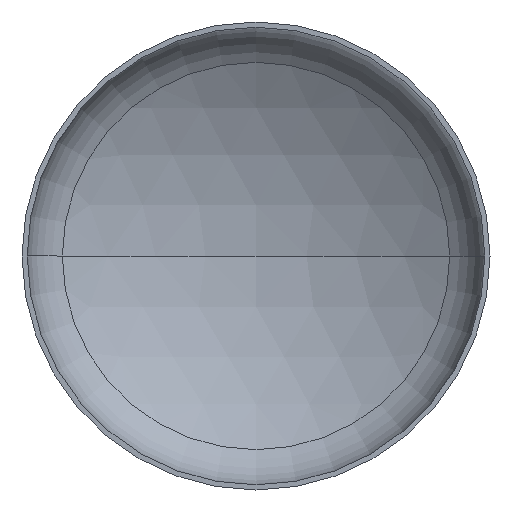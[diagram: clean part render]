
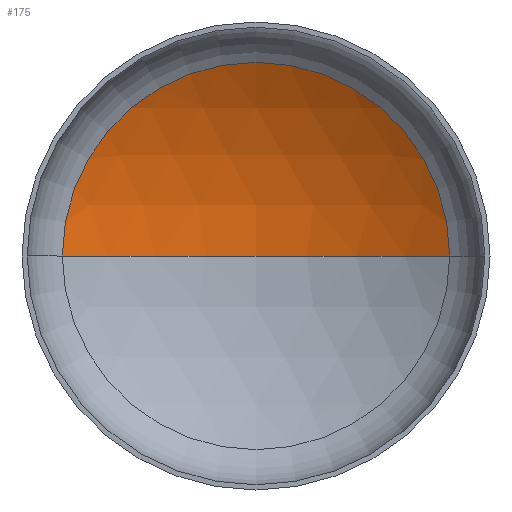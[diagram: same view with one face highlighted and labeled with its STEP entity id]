
A CAD part, front view. The second image highlights one B-rep face of the part: STEP entity #175.
In plain terms, the highlighted spherical face has radius 720 mm.
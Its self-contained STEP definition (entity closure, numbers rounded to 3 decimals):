
#3 = CIRCLE ( 'NONE', #61, 372.414 ) ;
#14 = DIRECTION ( 'NONE',  ( 0., -1., 0. ) ) ;
#18 = ORIENTED_EDGE ( 'NONE', *, *, #103, .T. ) ;
#24 = DIRECTION ( 'NONE',  ( 1., 0., 0. ) ) ;
#40 = AXIS2_PLACEMENT_3D ( 'NONE', #248, #350, #127 ) ;
#45 = CARTESIAN_POINT ( 'NONE',  ( 0., 253.613, 0. ) ) ;
#52 = ORIENTED_EDGE ( 'NONE', *, *, #105, .F. ) ;
#57 = AXIS2_PLACEMENT_3D ( 'NONE', #213, #128, #234 ) ;
#58 = ORIENTED_EDGE ( 'NONE', *, *, #104, .T. ) ;
#59 = AXIS2_PLACEMENT_3D ( 'NONE', #117, #410, #232 ) ;
#61 = AXIS2_PLACEMENT_3D ( 'NONE', #169, #14, #24 ) ;
#71 = VERTEX_POINT ( 'NONE', #243 ) ;
#103 = EDGE_CURVE ( 'NONE', #71, #134, #3, .T. ) ;
#104 = EDGE_CURVE ( 'NONE', #115, #71, #361, .T. ) ;
#105 = EDGE_CURVE ( 'NONE', #115, #134, #245, .T. ) ;
#110 = EDGE_LOOP ( 'NONE', ( #52, #58, #18 ) ) ;
#115 = VERTEX_POINT ( 'NONE', #45 ) ;
#117 = CARTESIAN_POINT ( 'NONE',  ( 0., -466.387, 0. ) ) ;
#127 = DIRECTION ( 'NONE',  ( -1., 0., 0. ) ) ;
#128 = DIRECTION ( 'NONE',  ( 0., 0., 1. ) ) ;
#134 = VERTEX_POINT ( 'NONE', #181 ) ;
#167 = SPHERICAL_SURFACE ( 'NONE', #40, 720. ) ;
#169 = CARTESIAN_POINT ( 'NONE',  ( 0., 149.818, 0. ) ) ;
#175 = ADVANCED_FACE ( 'NONE', ( #407 ), #167, .F. ) ;
#181 = CARTESIAN_POINT ( 'NONE',  ( -372.414, 149.818, 0. ) ) ;
#213 = CARTESIAN_POINT ( 'NONE',  ( 0., -466.387, 0. ) ) ;
#232 = DIRECTION ( 'NONE',  ( -1., 0., 0. ) ) ;
#234 = DIRECTION ( 'NONE',  ( 1., 0., 0. ) ) ;
#243 = CARTESIAN_POINT ( 'NONE',  ( 372.414, 149.818, 0. ) ) ;
#245 = CIRCLE ( 'NONE', #57, 720. ) ;
#248 = CARTESIAN_POINT ( 'NONE',  ( 0., -466.387, 0. ) ) ;
#350 = DIRECTION ( 'NONE',  ( 0., 0., -1. ) ) ;
#361 = CIRCLE ( 'NONE', #59, 720. ) ;
#407 = FACE_OUTER_BOUND ( 'NONE', #110, .T. ) ;
#410 = DIRECTION ( 'NONE',  ( 0., 0., -1. ) ) ;
